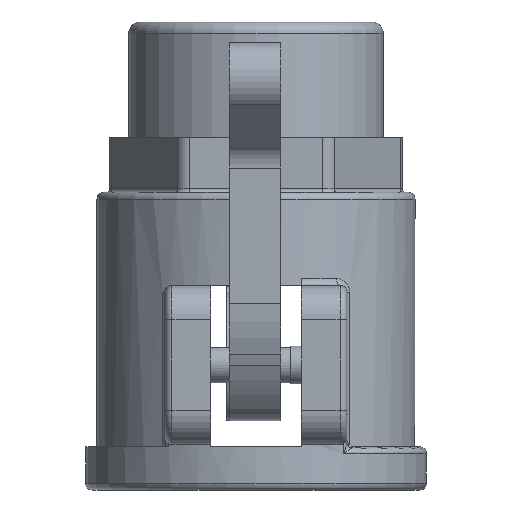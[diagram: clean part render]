
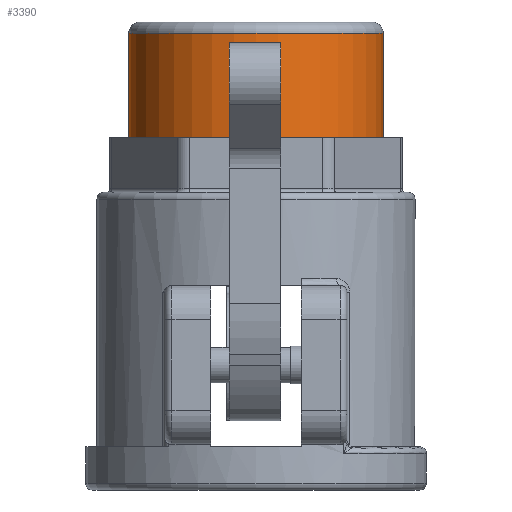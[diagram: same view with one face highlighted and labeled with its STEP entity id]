
A CAD part, front view. The second image highlights one B-rep face of the part: STEP entity #3390.
In plain terms, the highlighted cylindrical face has radius 14.224 mm (diameter 28.448 mm), a full revolution.
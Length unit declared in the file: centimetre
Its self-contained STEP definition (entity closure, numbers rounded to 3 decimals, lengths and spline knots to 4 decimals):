
#624=CYLINDRICAL_SURFACE('',#3598,1.4224);
#1188=VERTEX_POINT('',#4135);
#1189=VERTEX_POINT('',#4138);
#1456=CIRCLE('',#3597,1.4224);
#1457=CIRCLE('',#3599,1.4224);
#1653=EDGE_CURVE('',#1188,#1188,#1456,.T.);
#1654=EDGE_CURVE('',#1189,#1189,#1457,.T.);
#2153=ORIENTED_EDGE('',*,*,#1654,.F.);
#2154=ORIENTED_EDGE('',*,*,#1653,.F.);
#2947=EDGE_LOOP('',(#2153));
#2948=EDGE_LOOP('',(#2154));
#3177=FACE_BOUND('',#2947,.T.);
#3178=FACE_BOUND('',#2948,.T.);
#3390=ADVANCED_FACE('',(#3177,#3178),#624,.T.);
#3597=AXIS2_PLACEMENT_3D('',#4134,#27734,#27735);
#3598=AXIS2_PLACEMENT_3D('',#4136,#27736,#27737);
#3599=AXIS2_PLACEMENT_3D('',#4137,#27738,#27739);
#4134=CARTESIAN_POINT('',(0.,0.,
1.778));
#4135=CARTESIAN_POINT('',(1.4224,0.,1.778));
#4136=CARTESIAN_POINT('',(0.,0.,
0.6096));
#4137=CARTESIAN_POINT('',(0.,0.,
0.6096));
#4138=CARTESIAN_POINT('',(1.4224,0.,0.6096));
#27734=DIRECTION('',(0.,0.,1.));
#27735=DIRECTION('',(-1.422,0.,0.));
#27736=DIRECTION('',(0.,0.,1.));
#27737=DIRECTION('',(1.422,0.,0.));
#27738=DIRECTION('',(0.,0.,-1.));
#27739=DIRECTION('',(1.422,0.,0.));
